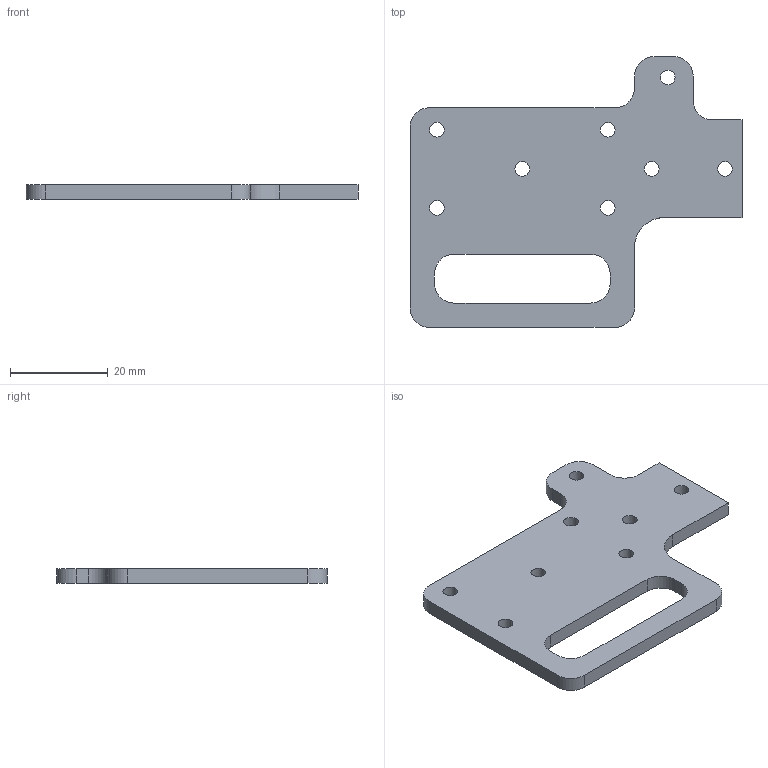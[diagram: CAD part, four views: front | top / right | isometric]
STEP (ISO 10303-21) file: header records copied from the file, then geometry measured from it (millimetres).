
FILE_DESCRIPTION(/* description */ (''),/* implementation_level */ '2;1');
FILE_NAME(/* name */ 'C:/Users/Ulises/Desktop/T1/mecanica_cad/soporte_polea_lisa.step',/* time_stamp */ '2020-10-16T01:32:18-03:00',/* author */ (''),/* organization */ (''),/* preprocessor_version */ 'ST-DEVELOPER v18.1',/* originating_system */ 'Autodesk Translation Framework v9.3.0.1241',/* authorisation */ '');
FILE_SCHEMA (('AUTOMOTIVE_DESIGN { 1 0 10303 214 3 1 1 }'));
Length unit declared in the file: millimetre
Products named in the file (1): soporte_polea_lisa
Bounding box: 68 x 55.5 x 3 mm (x, y, z)
Volume: 6781.8 mm3; surface area: 5700 mm2
Topology: 1 solids, 1 shells, 36 faces, 102 edges, 68 vertices
Faces by surface type: cylinder 20, plane 16
Full cylindrical faces by diameter (mm): 3 x8
Entity records: 1262 total; most frequent: DIRECTION 216, CARTESIAN_POINT 207, ORIENTED_EDGE 204, EDGE_CURVE 102, AXIS2_PLACEMENT_3D 77, VERTEX_POINT 68, LINE 62, VECTOR 62
